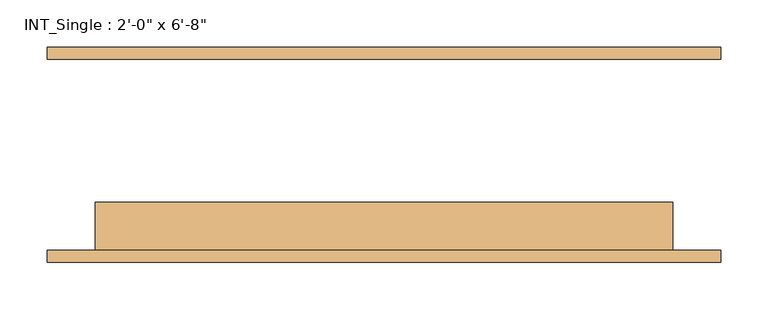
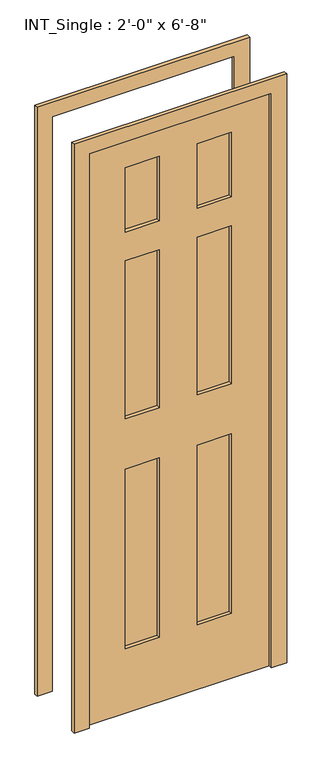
"""IFC4 building model written with IfcOpenShell, lengths in millimetres: door geometry."""

from ifc_helpers import new_model, si_unit, frame, origin, place, context, project, spatial, polyline, outline, extrude, source, transform, mapped, element, save


def door_c8669bc4(model_context):
    return source(origin(), model_context, "Body", "SweptSolid", [
        extrude(outline(polyline([(0.0, -355.6), (0.0, -304.8), (2032.0, -304.8), (2032.0, 304.8), (0.0, 304.8), (0.0, 355.6), (2082.8, 355.6), (2082.8, -355.6), (0.0, -355.6)])), frame((0.0, 100.80625, 0.0), z_axis=(0.0, 1.0, 0.0), x_axis=(0.0, 0.0, 1.0)), (0.0, 0.0, 1.0), 12.7),
        extrude(outline(polyline([(0.0, 355.6), (2082.8, 355.6), (2082.8, -355.6), (0.0, -355.6), (0.0, -304.8), (2032.0, -304.8), (2032.0, 304.8), (0.0, 304.8), (0.0, 355.6)])), frame((0.0, -113.50625, 0.0), z_axis=(0.0, 1.0, 0.0), x_axis=(0.0, 0.0, 1.0)), (0.0, 0.0, 1.0), 12.7),
        extrude(outline(polyline([(-63.5, -62.70625), (-63.5, -88.10625), (-177.8, -88.10625), (-177.8, -62.70625), (-63.5, -62.70625)])), frame((0.0, 0.0, 1701.8), z_axis=(0.0, 0.0, 1.0), x_axis=(1.0, 0.0, 0.0)), (0.0, 0.0, 1.0), 228.6),
        extrude(outline(polyline([(177.8, -62.70625), (177.8, -88.10625), (63.5, -88.10625), (63.5, -62.70625), (177.8, -62.70625)])), frame((0.0, 0.0, 1701.8), z_axis=(0.0, 0.0, 1.0), x_axis=(1.0, 0.0, 0.0)), (0.0, 0.0, 1.0), 228.6),
        extrude(outline(polyline([(-63.5, -62.70625), (-63.5, -88.10625), (-177.8, -88.10625), (-177.8, -62.70625), (-63.5, -62.70625)])), frame((0.0, 0.0, 1041.4), z_axis=(0.0, 0.0, 1.0), x_axis=(1.0, 0.0, 0.0)), (0.0, 0.0, 1.0), 558.8),
        extrude(outline(polyline([(177.8, -62.70625), (177.8, -88.10625), (63.5, -88.10625), (63.5, -62.70625), (177.8, -62.70625)])), frame((0.0, 0.0, 1041.4), z_axis=(0.0, 0.0, 1.0), x_axis=(1.0, 0.0, 0.0)), (0.0, 0.0, 1.0), 558.8),
        extrude(outline(polyline([(-63.5, -62.70625), (-63.5, -88.10625), (-177.8, -88.10625), (-177.8, -62.70625), (-63.5, -62.70625)])), frame((0.0, 0.0, 228.6), z_axis=(0.0, 0.0, 1.0), x_axis=(1.0, 0.0, 0.0)), (0.0, 0.0, 1.0), 635.0),
        extrude(outline(polyline([(177.8, -62.70625), (177.8, -88.10625), (63.5, -88.10625), (63.5, -62.70625), (177.8, -62.70625)])), frame((0.0, 0.0, 228.6), z_axis=(0.0, 0.0, 1.0), x_axis=(1.0, 0.0, 0.0)), (0.0, 0.0, 1.0), 635.0),
        extrude(outline(polyline([(2032.0, 304.8), (2032.0, -304.8), (0.0, -304.8), (0.0, 304.8), (2032.0, 304.8)]), holes=[polyline([(1930.4, -63.5), (1701.8, -63.5), (1701.8, -177.8), (1930.4, -177.8), (1930.4, -63.5)]), polyline([(1930.4, 177.8), (1701.8, 177.8), (1701.8, 63.5), (1930.4, 63.5), (1930.4, 177.8)]), polyline([(1600.2, -63.5), (1041.4, -63.5), (1041.4, -177.8), (1600.2, -177.8), (1600.2, -63.5)]), polyline([(1600.2, 177.8), (1041.4, 177.8), (1041.4, 63.5), (1600.2, 63.5), (1600.2, 177.8)]), polyline([(863.6, -63.5), (228.6, -63.5), (228.6, -177.8), (863.6, -177.8), (863.6, -63.5)]), polyline([(863.6, 177.8), (228.6, 177.8), (228.6, 63.5), (863.6, 63.5), (863.6, 177.8)])]), frame((0.0, -100.80625, 0.0), z_axis=(0.0, 1.0, 0.0), x_axis=(0.0, 0.0, 1.0)), (0.0, 0.0, 1.0), 50.8),
    ])


if __name__ == "__main__":
    model = new_model("IFC4")
    model_context = context("Model", 3, world=origin())
    ifc_project = project(units=[si_unit("LENGTHUNIT", "METRE", prefix="MILLI")], contexts=[model_context])
    site = spatial("IfcSite", under=ifc_project)
    building = spatial("IfcBuilding", under=site)
    placement = place(None, origin())
    door_shape = door_c8669bc4(model_context)
    element("IfcDoor", 1, ObjectType="INT_Single : 2'-0\" x 6'-8\"", at=placement, inside=building, context=model_context, shape_type="MappedRepresentation", body=[
        mapped(door_shape, transform((0.0, 0.0, 0.0), x_axis=(1.0, 0.0, 0.0), y_axis=(0.0, 1.0, 0.0), z_axis=(0.0, 0.0, 1.0))),
    ])
    save(model, "model.ifc")
